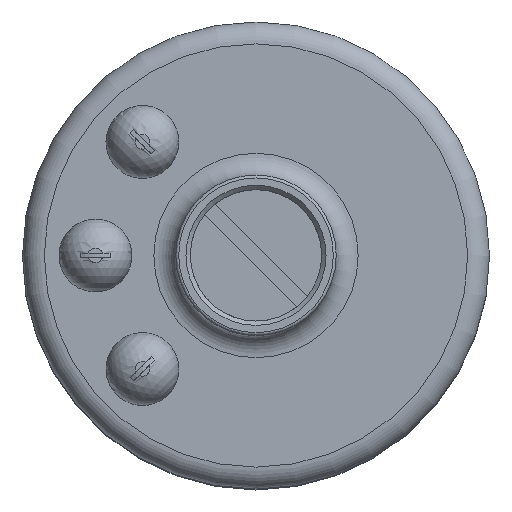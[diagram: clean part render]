
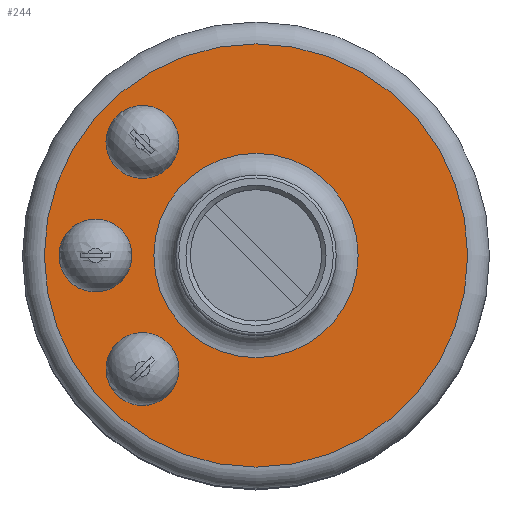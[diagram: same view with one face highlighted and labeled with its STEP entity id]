
A CAD part, top view. The second image highlights one B-rep face of the part: STEP entity #244.
In plain terms, the highlighted planar face has unit normal (0, 0, 1).
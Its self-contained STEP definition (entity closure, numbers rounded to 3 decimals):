
#95 = DIRECTION ( 'NONE',  ( 0., 0., -1. ) ) ;
#122 = DIRECTION ( 'NONE',  ( 0., -1., 0. ) ) ;
#244 = ADVANCED_FACE ( 'NONE', ( #6340, #5187, #4727, #4036, #2746 ), #2524, .T. ) ;
#312 = EDGE_CURVE ( 'NONE', #3255, #3255, #2511, .T. ) ;
#410 = DIRECTION ( 'NONE',  ( 0., 0., 1. ) ) ;
#439 = DIRECTION ( 'NONE',  ( 0., 0., -1. ) ) ;
#545 = DIRECTION ( 'NONE',  ( -1., 0., 0. ) ) ;
#561 = EDGE_LOOP ( 'NONE', ( #1538 ) ) ;
#683 = CIRCLE ( 'NONE', #1352, 2.5 ) ;
#779 = ORIENTED_EDGE ( 'NONE', *, *, #312, .T. ) ;
#962 = CARTESIAN_POINT ( 'NONE',  ( 0., -7., 0. ) ) ;
#1121 = VERTEX_POINT ( 'NONE', #962 ) ;
#1352 = AXIS2_PLACEMENT_3D ( 'NONE', #3462, #2516, #545 ) ;
#1392 = DIRECTION ( 'NONE',  ( -0.707, -0.707, 0. ) ) ;
#1448 = AXIS2_PLACEMENT_3D ( 'NONE', #5807, #5795, #2367 ) ;
#1538 = ORIENTED_EDGE ( 'NONE', *, *, #5104, .T. ) ;
#1638 = CARTESIAN_POINT ( 'NONE',  ( 0., 0., 0. ) ) ;
#1651 = VERTEX_POINT ( 'NONE', #2283 ) ;
#1885 = CARTESIAN_POINT ( 'NONE',  ( -11., 0., 0. ) ) ;
#2178 = CARTESIAN_POINT ( 'NONE',  ( -12.768, -1.768, 0. ) ) ;
#2283 = CARTESIAN_POINT ( 'NONE',  ( -10.278, 7.778, 0. ) ) ;
#2367 = DIRECTION ( 'NONE',  ( 0., -1., 0. ) ) ;
#2511 = CIRCLE ( 'NONE', #4610, 2.5 ) ;
#2516 = DIRECTION ( 'NONE',  ( 0., 0., -1. ) ) ;
#2524 = PLANE ( 'NONE',  #1448 ) ;
#2688 = EDGE_CURVE ( 'NONE', #4931, #4931, #4813, .T. ) ;
#2732 = ORIENTED_EDGE ( 'NONE', *, *, #4690, .T. ) ;
#2746 = FACE_BOUND ( 'NONE', #3097, .T. ) ;
#2785 = CIRCLE ( 'NONE', #5480, 14.5 ) ;
#2827 = CARTESIAN_POINT ( 'NONE',  ( -7.778, -7.778, 0. ) ) ;
#3097 = EDGE_LOOP ( 'NONE', ( #2732 ) ) ;
#3255 = VERTEX_POINT ( 'NONE', #3654 ) ;
#3313 = CARTESIAN_POINT ( 'NONE',  ( 0., 0., 0. ) ) ;
#3339 = DIRECTION ( 'NONE',  ( 0., 0., -1. ) ) ;
#3462 = CARTESIAN_POINT ( 'NONE',  ( -7.778, 7.778, 0. ) ) ;
#3492 = EDGE_CURVE ( 'NONE', #1651, #1651, #683, .T. ) ;
#3507 = ORIENTED_EDGE ( 'NONE', *, *, #3492, .T. ) ;
#3654 = CARTESIAN_POINT ( 'NONE',  ( -7.778, -10.278, 0. ) ) ;
#3813 = DIRECTION ( 'NONE',  ( 0., -1., 0. ) ) ;
#3933 = EDGE_LOOP ( 'NONE', ( #5087 ) ) ;
#4036 = FACE_OUTER_BOUND ( 'NONE', #561, .T. ) ;
#4610 = AXIS2_PLACEMENT_3D ( 'NONE', #2827, #3339, #3813 ) ;
#4627 = CIRCLE ( 'NONE', #5267, 7. ) ;
#4690 = EDGE_CURVE ( 'NONE', #1121, #1121, #4627, .T. ) ;
#4693 = EDGE_LOOP ( 'NONE', ( #779 ) ) ;
#4727 = FACE_BOUND ( 'NONE', #5210, .T. ) ;
#4813 = CIRCLE ( 'NONE', #5361, 2.5 ) ;
#4931 = VERTEX_POINT ( 'NONE', #2178 ) ;
#5087 = ORIENTED_EDGE ( 'NONE', *, *, #2688, .T. ) ;
#5104 = EDGE_CURVE ( 'NONE', #5310, #5310, #2785, .T. ) ;
#5187 = FACE_BOUND ( 'NONE', #3933, .T. ) ;
#5210 = EDGE_LOOP ( 'NONE', ( #3507 ) ) ;
#5267 = AXIS2_PLACEMENT_3D ( 'NONE', #1638, #95, #122 ) ;
#5310 = VERTEX_POINT ( 'NONE', #5369 ) ;
#5323 = DIRECTION ( 'NONE',  ( 0., -1., 0. ) ) ;
#5361 = AXIS2_PLACEMENT_3D ( 'NONE', #1885, #439, #1392 ) ;
#5369 = CARTESIAN_POINT ( 'NONE',  ( 0., -14.5, 0. ) ) ;
#5480 = AXIS2_PLACEMENT_3D ( 'NONE', #3313, #410, #5323 ) ;
#5795 = DIRECTION ( 'NONE',  ( 0., 0., 1. ) ) ;
#5807 = CARTESIAN_POINT ( 'NONE',  ( 0., 5.5, 0. ) ) ;
#6340 = FACE_BOUND ( 'NONE', #4693, .T. ) ;
